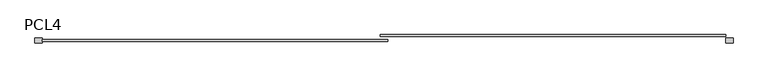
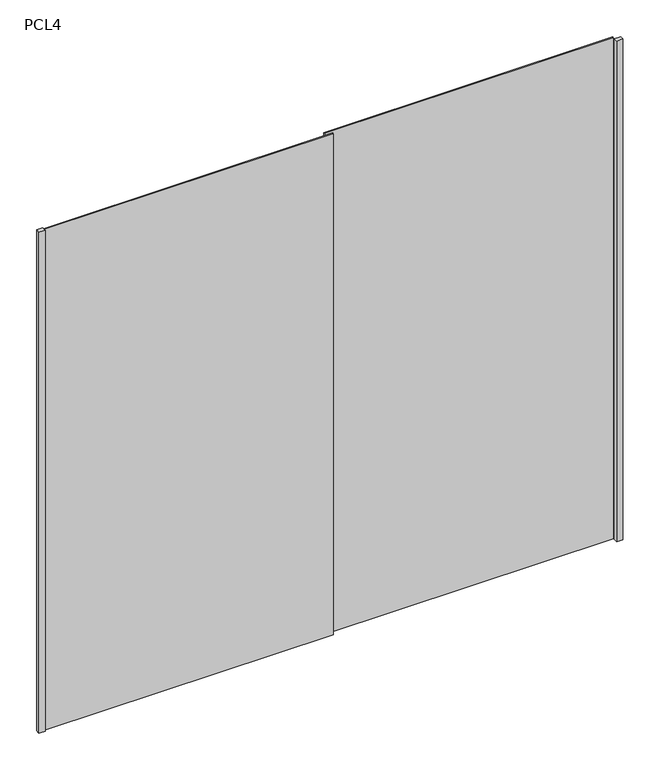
"""IFC4 building model written with IfcOpenShell, lengths in millimetres: furniture geometry, Puerta Closet corre 2 hojas : PCL4."""

import ifcopenshell
import ifcopenshell.guid

model = None  # the IFC model being written
_history = None  # IfcOwnerHistory: only IFC2X3 demands one
_inside = {}  # id of a spatial element -> (the spatial element, [elements in it])
_under = {}  # id of a project, library or spatial element -> (it, [spatial elements below it])
_declared = {}  # id of a project -> (the project, [libraries it declares])
_typed = {}  # id of a type object -> (the type object, [elements of that type])
_made_of = {}  # id of a material, layer set ... -> (it, [elements and type objects made of it])


def new_model(schema):
    """Start an empty IFC model of exactly this schema.

    Asked for "IFC4X3", IfcOpenShell would pick the latest addendum, in which some entities
    have other attributes; the version numbers below select the first issue.
    IFC2X3 requires an IfcOwnerHistory on every rooted entity: one is made here for all.
    """
    global model, _history
    if schema == "IFC4X3":
        model = ifcopenshell.file(schema_version=(4, 3, 0, 0))
    else:
        model = ifcopenshell.file(schema=schema)
    _inside.clear()
    _under.clear()
    _declared.clear()
    _typed.clear()
    _made_of.clear()
    _history = None
    if model.schema == "IFC2X3":
        org = make("IfcOrganization", Name="unknown")
        user = make(
            "IfcPersonAndOrganization",
            ThePerson=make("IfcPerson", FamilyName="unknown"),
            TheOrganization=org,
        )
        app = make(
            "IfcApplication",
            ApplicationDeveloper=org,
            Version="unknown",
            ApplicationFullName="unknown",
            ApplicationIdentifier="unknown",
        )
        _history = make(
            "IfcOwnerHistory",
            OwningUser=user,
            OwningApplication=app,
            ChangeAction="ADDED",
            CreationDate=0,
        )
    return model


def make(cls, **values):
    """One entity of the class cls with the attributes given. An attribute that is None is left unset."""
    return model.create_entity(
        cls, **{name: value for name, value in values.items() if value is not None}
    )


def rooted(cls, **values):
    """An entity with a GlobalId (a new one), such as an element, a storey or a relation."""
    return make(cls, GlobalId=ifcopenshell.guid.new(), OwnerHistory=_history, **values)


def si_unit(unit_type, name, prefix=None):
    """IfcSIUnit, for example si_unit("LENGTHUNIT", "METRE", prefix="MILLI")."""
    return make("IfcSIUnit", UnitType=unit_type, Prefix=prefix, Name=name)


def assignment(units):
    """IfcUnitAssignment: the units of a project."""
    return None if units is None else make("IfcUnitAssignment", Units=units)


def point(xyz):
    """IfcCartesianPoint."""
    return None if xyz is None else make("IfcCartesianPoint", Coordinates=xyz)


def direction(xyz):
    """IfcDirection."""
    return None if xyz is None else make("IfcDirection", DirectionRatios=xyz)


def frame(location, z_axis=None, x_axis=None):
    """IfcAxis2Placement3D, a coordinate frame: its origin and axes. An axis left out is left unset."""
    return make(
        "IfcAxis2Placement3D",
        Location=point(location),
        Axis=direction(z_axis),
        RefDirection=direction(x_axis),
    )


def origin():
    """The frame at (0, 0, 0) with its axes left unset."""
    return frame((0.0, 0.0, 0.0))


def origin_with_axes():
    """The frame at (0, 0, 0) with the z axis (0, 0, 1) and the x axis (1, 0, 0) written out."""
    return frame((0.0, 0.0, 0.0), z_axis=(0.0, 0.0, 1.0), x_axis=(1.0, 0.0, 0.0))


def place(relative_to, where):
    """IfcLocalPlacement: puts the frame where relative to a parent placement (None: the world)."""
    return make(
        "IfcLocalPlacement", PlacementRelTo=relative_to, RelativePlacement=where
    )


def context(
    kind, dimensions, precision=None, world=None, true_north=None, identifier=None
):
    """IfcGeometricRepresentationContext, for example the 3D "Model" context."""
    return make(
        "IfcGeometricRepresentationContext",
        ContextIdentifier=identifier,
        ContextType=kind,
        CoordinateSpaceDimension=dimensions,
        Precision=precision,
        WorldCoordinateSystem=world,
        TrueNorth=true_north,
    )


def project(units=None, contexts=None):
    """IfcProject with its units and contexts."""
    return rooted(
        "IfcProject",
        Name="project",
        RepresentationContexts=contexts,
        UnitsInContext=assignment(units),
    )


def spatial(cls, under=None, at=None, **own):
    """A site, building, storey or space (cls), placed at a placement, below another one or the project."""
    s = rooted(cls, ObjectPlacement=at, **own)
    if under is not None:
        _under.setdefault(under.id(), (under, []))[1].append(s)
    return s


def polyline(points):
    """IfcPolyline through the points."""
    return make("IfcPolyline", Points=[point(p) for p in points])


def outline(outer, holes=None, kind="AREA"):
    """IfcArbitraryClosedProfileDef: a profile drawn as a closed curve; with holes, ...WithVoids."""
    if holes is None:
        return make("IfcArbitraryClosedProfileDef", ProfileType=kind, OuterCurve=outer)
    return make(
        "IfcArbitraryProfileDefWithVoids",
        ProfileType=kind,
        OuterCurve=outer,
        InnerCurves=holes,
    )


def extrude(swept, where, along, depth):
    """IfcExtrudedAreaSolid: the profile swept, set in the frame where, extruded along a direction by depth."""
    return make(
        "IfcExtrudedAreaSolid",
        SweptArea=swept,
        Position=where,
        ExtrudedDirection=direction(along),
        Depth=depth,
    )


def shape(context_of_items, identifier, shape_type, items):
    """IfcShapeRepresentation: the items that make up one representation, for example the "Body"."""
    return make(
        "IfcShapeRepresentation",
        ContextOfItems=context_of_items,
        RepresentationIdentifier=identifier,
        RepresentationType=shape_type,
        Items=items,
    )


def source(mapping_origin, context_of_items, identifier, shape_type, items):
    """IfcRepresentationMap: a shape defined once, which mapped items show again and again."""
    return make(
        "IfcRepresentationMap",
        MappingOrigin=mapping_origin,
        MappedRepresentation=shape(context_of_items, identifier, shape_type, items),
    )


def transform(
    local_origin,
    x_axis=None,
    y_axis=None,
    z_axis=None,
    scale=None,
    scale2=None,
    scale3=None,
    uniform=True,
):
    """IfcCartesianTransformationOperator3D, or its non-uniform kind. x_axis, y_axis, z_axis: its Axis1, 2, 3."""
    if uniform:
        return make(
            "IfcCartesianTransformationOperator3D",
            Axis1=direction(x_axis),
            Axis2=direction(y_axis),
            LocalOrigin=point(local_origin),
            Scale=scale,
            Axis3=direction(z_axis),
        )
    return make(
        "IfcCartesianTransformationOperator3DnonUniform",
        Axis1=direction(x_axis),
        Axis2=direction(y_axis),
        LocalOrigin=point(local_origin),
        Scale=scale,
        Axis3=direction(z_axis),
        Scale2=scale2,
        Scale3=scale3,
    )


def mapped(mapping_source, mapping_target):
    """IfcMappedItem: shows the shape of a source again, moved by a transform."""
    return make(
        "IfcMappedItem", MappingSource=mapping_source, MappingTarget=mapping_target
    )


def made_of(thing, what):
    """Note that an element or type object is made of a material, layer set ...; save() writes the relation."""
    if what is not None:
        _made_of.setdefault(what.id(), (what, []))[1].append(thing)
    return thing


def element(
    cls,
    number,
    at=None,
    inside=None,
    cuts=None,
    type_object=None,
    material=None,
    context=None,
    identifier="Body",
    shape_type=None,
    held_by="IfcProductDefinitionShape",
    body=None,
    shapes=None,
    **own,
):
    """One element of the class cls, such as IfcWall. Its Tag is "e" and its number.

    at: its placement. inside: the storey or other place that contains it. cuts: it is an
    opening in that element (IfcRelVoidsElement). A single representation is given by context,
    identifier, shape_type and body (its items); several are given by shapes. held_by: the class
    of the entity that holds the representations. save() writes the other relations.
    """
    e = rooted(cls, Tag="e%d" % number, ObjectPlacement=at, **own)
    if body is not None:
        shapes = [shape(context, identifier, shape_type, body)]
    if shapes is not None:
        e.Representation = make(held_by, Representations=shapes)
    if inside is not None:
        _inside.setdefault(inside.id(), (inside, []))[1].append(e)
    if cuts is not None:
        rooted(
            "IfcRelVoidsElement", RelatingBuildingElement=cuts, RelatedOpeningElement=e
        )
    if type_object is not None:
        _typed.setdefault(type_object.id(), (type_object, []))[1].append(e)
    return made_of(e, material)


def aggregate(whole, parts):
    """IfcRelAggregates: a whole, such as a stair, and the parts it consists of."""
    return rooted("IfcRelAggregates", RelatingObject=whole, RelatedObjects=parts)


def save(model, path):
    """Write the relations noted so far, then the file.

    IfcRelAggregates (storeys below a building ...), IfcRelContainedInSpatialStructure (elements
    in a storey), IfcRelDefinesByType, IfcRelAssociatesMaterial and IfcRelDeclares: one each for
    every whole, place, type object, material and project.
    """
    for whole, parts in _under.values():
        aggregate(whole, parts)
    for where, things in _inside.values():
        rooted(
            "IfcRelContainedInSpatialStructure",
            RelatedElements=things,
            RelatingStructure=where,
        )
    for kind, things in _typed.values():
        rooted("IfcRelDefinesByType", RelatedObjects=things, RelatingType=kind)
    for what, things in _made_of.values():
        rooted("IfcRelAssociatesMaterial", RelatedObjects=things, RelatingMaterial=what)
    for by, libraries in _declared.values():
        rooted("IfcRelDeclares", RelatingContext=by, RelatedDefinitions=libraries)
    model.write(path)


def pcl4_f49da4e0(model_context):
    return source(origin(), model_context, "Body", "SweptSolid", [
        extrude(outline(polyline([(850.0, 80.0), (820.0, 80.0), (820.0, 100.0), (850.0, 100.0), (850.0, 80.0)])), origin_with_axes(), (0.0, 0.0, 1.0), 2520.0),
        extrude(outline(polyline([(820.0, 106.6666667), (-555.0, 106.6666667), (-555.0, 113.3333333), (820.0, 113.3333333), (820.0, 106.6666667)])), origin_with_axes(), (0.0, 0.0, 1.0), 2520.0),
        extrude(outline(polyline([(-525.0, 86.6666667), (-1900.0, 86.6666667), (-1900.0, 93.3333333), (-525.0, 93.3333333), (-525.0, 86.6666667)])), origin_with_axes(), (0.0, 0.0, 1.0), 2520.0),
        extrude(outline(polyline([(-1930.0, 80.0), (-1930.0, 100.0), (-1900.0, 100.0), (-1900.0, 80.0), (-1930.0, 80.0)])), origin_with_axes(), (0.0, 0.0, 1.0), 2520.0),
    ])


if __name__ == "__main__":
    model = new_model("IFC4")
    model_context = context("Model", 3, world=origin())
    ifc_project = project(units=[si_unit("LENGTHUNIT", "METRE", prefix="MILLI")], contexts=[model_context])
    site = spatial("IfcSite", under=ifc_project)
    building = spatial("IfcBuilding", under=site)
    placement = place(None, origin())
    pcl4_shape = pcl4_f49da4e0(model_context)
    element("IfcFurniture", 1, ObjectType="Puerta Closet corre 2 hojas : PCL4", at=placement, inside=building, context=model_context, shape_type="MappedRepresentation", body=[
        mapped(pcl4_shape, transform((0.0, 0.0, 0.0), x_axis=(1.0, 0.0, 0.0), y_axis=(0.0, 1.0, 0.0), z_axis=(0.0, 0.0, 1.0))),
    ])
    save(model, "model.ifc")
